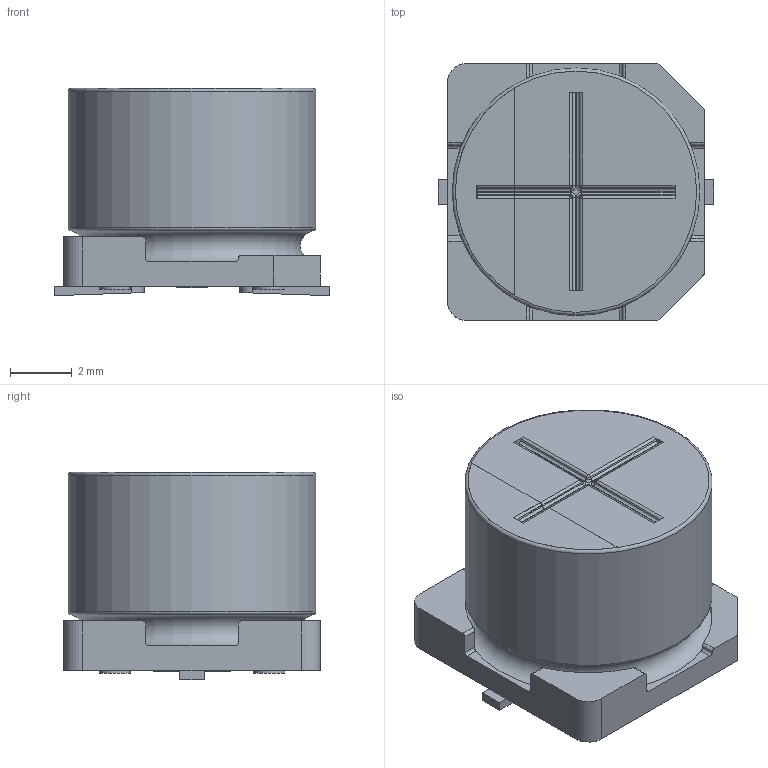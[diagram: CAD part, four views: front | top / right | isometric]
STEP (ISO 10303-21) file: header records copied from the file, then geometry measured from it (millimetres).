
FILE_DESCRIPTION(/* description */ (''),/* implementation_level */ '2;1');
FILE_NAME(/* name */ '8x6.7_Chip.stp',/* time_stamp */ '2017-09-04T17:31:59+09:00',/* author */ (''),/* organization */ (''),/* preprocessor_version */ 'ST-DEVELOPER v16',/* originating_system */ 'SIEMENS PLM Software NX 11.0',/* authorisation */ '');
FILE_SCHEMA (('AUTOMOTIVE_DESIGN { 1 0 10303 214 3 1 1 1 }'));
Length unit declared in the file: millimetre
Products named in the file (1): 8x6.7_Chip_0
Bounding box: 8.9 x 8.3 x 6.7 mm (x, y, z)
Volume: 333.7 mm3; surface area: 460.3 mm2
Topology: 5 solids, 5 shells, 132 faces, 330 edges, 210 vertices
Faces by surface type: plane 61, cylinder 60, sphere 4, bspline 4, torus 3
Full cylindrical faces by diameter (mm): 1 x4, 8 x1
Entity records: 4212 total; most frequent: CARTESIAN_POINT 919, DIRECTION 670, ORIENTED_EDGE 634, EDGE_CURVE 317, AXIS2_PLACEMENT_3D 240, VERTEX_POINT 209, LINE 190, VECTOR 190
